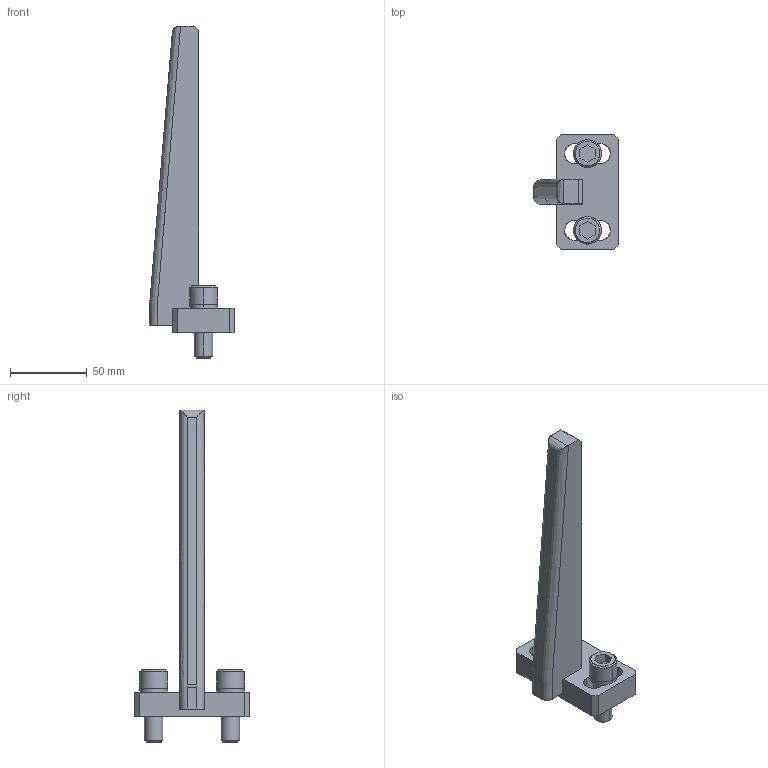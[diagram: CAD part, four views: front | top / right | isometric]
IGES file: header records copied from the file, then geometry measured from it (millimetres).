
Global section: file name: E:\UnigraphicsGraphicData\MISUMI_PRESS-PARTS\IGES\3d_nggc-200-20-15_01509_r00.igs; native system: NX V5.0; preprocessor: UGS NX IGES V5.0; author: MISUMI; date: 20110105.162040; units: millimetre
Bounding box: 55 x 75 x 216.5 mm (x, y, z)
Surface area: 33508.5 mm2 (no closed solid volume)
Topology: 0 solids, 0 shells, 103 faces, 665 edges, 665 vertices
Faces by surface type: bspline 103
